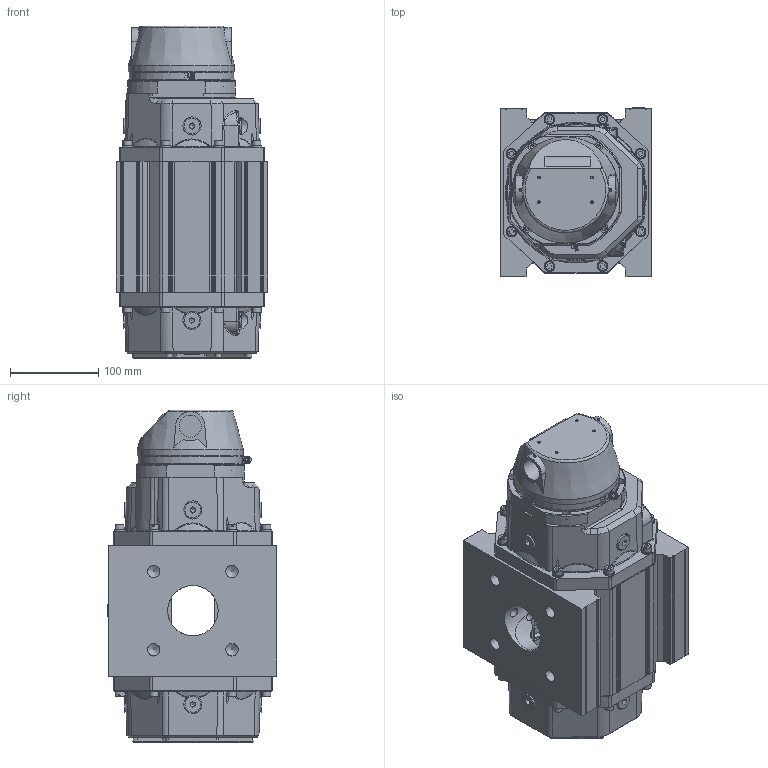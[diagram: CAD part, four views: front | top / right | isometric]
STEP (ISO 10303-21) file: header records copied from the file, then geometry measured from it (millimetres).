
FILE_DESCRIPTION(('STEP AP242'), '1');
FILE_NAME('G16-G25-G40-G65 DN50', '2024-02-08T09:25:22', (''), (''), 'C3D Converter', 'C3D Toolkit', '');
FILE_SCHEMA(('AP242_MANAGED_MODEL_BASED_3D_ENGINEERING_MIM_LF { 1 0 10303 442 1 1 4 }'));
Length unit declared in the file: millimetre
Products named in the file (1): TXTZ33335
Bounding box: 171 x 192 x 375.3 mm (x, y, z)
Volume: 4886999.8 mm3; surface area: 482389.4 mm2
Topology: 5 solids, 5 shells, 1601 faces, 3973 edges, 2486 vertices
Faces by surface type: plane 636, cylinder 511, bspline 215, cone 132, torus 89, sphere 18
Full cylindrical faces by diameter (mm): 2 x12, 2.05 x2, 2.5 x8, 3.175 x1, 3.2 x1, 3.3 x1, 4.2 x4, 4.5 x1, 5 x8, 5.2 x4, 5.774 x9, 6.2 x1, 6.35 x4, 7.8 x4, 8 x4, 9 x2, 9.4 x4, 10 x20, 11 x11, 11.125 x2, 12 x16, 13.096 x14, 14 x10, 16 x6, 17.6 x5, 18 x9, 20 x2, 20.5 x14, 22 x2, 25 x2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
Entity records: 77080 total; most frequent: CARTESIAN_POINT 42721, ORIENTED_EDGE 7178, DIRECTION 6470, EDGE_CURVE 3589, AXIS2_PLACEMENT_3D 2521, VERTEX_POINT 2439, EDGE_LOOP 2094, FACE_BOUND 1642
